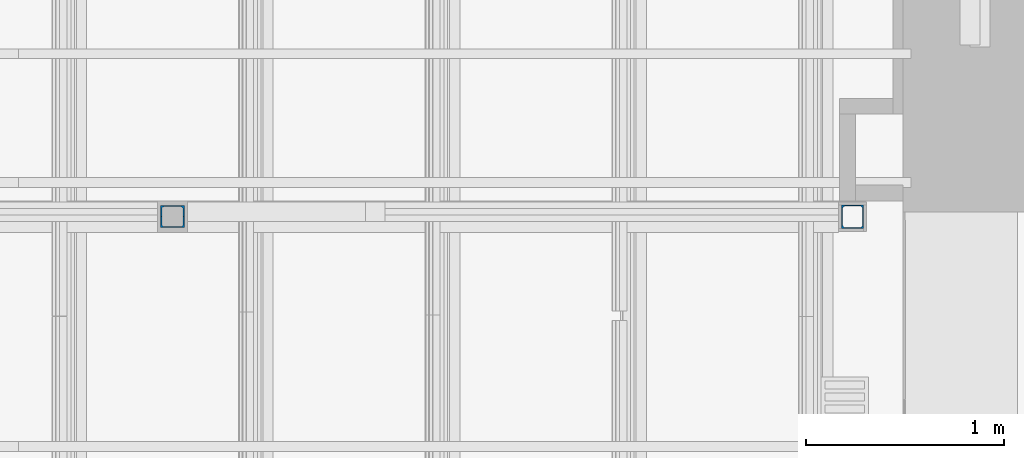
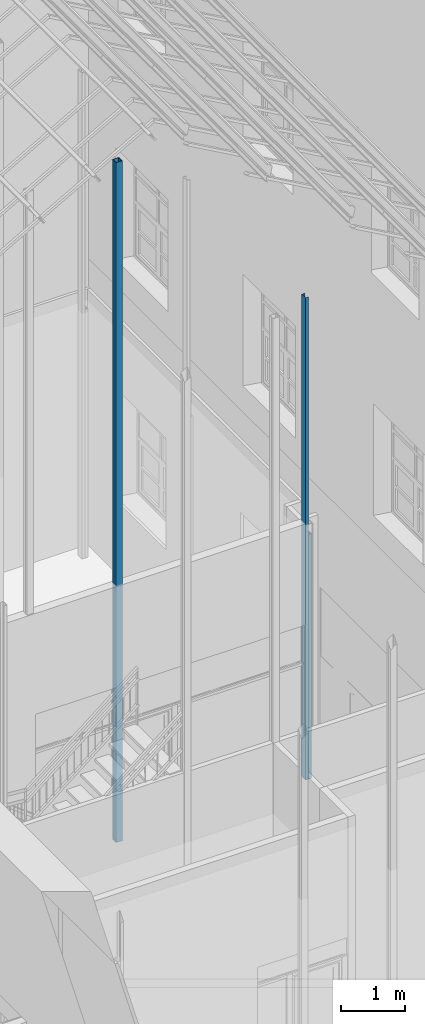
# One storey, part 12 of 75: 4 columns.
"""IFC2X3 building model written with IfcOpenShell, lengths in metres."""

from ifc_helpers import new_model, entity, si_unit, converted_unit, derived_unit, direction, frame, frame_2d, origin, place, context, subcontext, project, spatial, polyline, circle_curve, parameter, trimmed, segment, composite_curve, outline, extrude, source, transform, mapped, material, type_object, type_shapes, element, save


model = new_model("IFC2X3")

# Units and contexts
model_context = context("Model", 3, precision=1e-05, world=origin(), true_north=direction((6.12303176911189e-17, 1.0)))
body_context = subcontext(model_context, "Body", "Model", "MODEL_VIEW")
ifc_project = project(units=[si_unit("LENGTHUNIT", "METRE"), si_unit("AREAUNIT", "SQUARE_METRE"), si_unit("VOLUMEUNIT", "CUBIC_METRE"), converted_unit("PLANEANGLEUNIT", "DEGREE", entity("IfcRatioMeasure", 0.0174532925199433), si_unit("PLANEANGLEUNIT", "RADIAN"), dimensions=[0, 0, 0, 0, 0, 0, 0]), si_unit("MASSUNIT", "GRAM", prefix="KILO"), derived_unit("MASSDENSITYUNIT", [(si_unit("MASSUNIT", "GRAM", prefix="KILO"), 1), (si_unit("LENGTHUNIT", "METRE"), -3)]), derived_unit("MOMENTOFINERTIAUNIT", [(si_unit("LENGTHUNIT", "METRE"), 4)]), si_unit("TIMEUNIT", "SECOND"), si_unit("FREQUENCYUNIT", "HERTZ"), si_unit("THERMODYNAMICTEMPERATUREUNIT", "DEGREE_CELSIUS"), derived_unit("THERMALTRANSMITTANCEUNIT", [(si_unit("MASSUNIT", "GRAM", prefix="KILO"), 1), (si_unit("THERMODYNAMICTEMPERATUREUNIT", "KELVIN"), -1), (si_unit("TIMEUNIT", "SECOND"), -3)]), derived_unit("VOLUMETRICFLOWRATEUNIT", [(si_unit("LENGTHUNIT", "METRE"), 3), (si_unit("TIMEUNIT", "SECOND"), -1)]), si_unit("ELECTRICCURRENTUNIT", "AMPERE"), si_unit("ELECTRICVOLTAGEUNIT", "VOLT"), si_unit("POWERUNIT", "WATT"), si_unit("FORCEUNIT", "NEWTON", prefix="KILO"), si_unit("ILLUMINANCEUNIT", "LUX"), si_unit("LUMINOUSFLUXUNIT", "LUMEN"), si_unit("LUMINOUSINTENSITYUNIT", "CANDELA"), derived_unit("USERDEFINED", [(si_unit("MASSUNIT", "GRAM", prefix="KILO"), -1), (si_unit("LENGTHUNIT", "METRE"), -2), (si_unit("TIMEUNIT", "SECOND"), 3), (si_unit("LUMINOUSFLUXUNIT", "LUMEN"), 1)]), derived_unit("LINEARVELOCITYUNIT", [(si_unit("LENGTHUNIT", "METRE"), 1), (si_unit("TIMEUNIT", "SECOND"), -1)]), si_unit("PRESSUREUNIT", "PASCAL"), derived_unit("USERDEFINED", [(si_unit("LENGTHUNIT", "METRE"), -2), (si_unit("MASSUNIT", "GRAM", prefix="KILO"), 1), (si_unit("TIMEUNIT", "SECOND"), -2)]), derived_unit("LINEARFORCEUNIT", [(si_unit("MASSUNIT", "GRAM", prefix="KILO"), 1), (si_unit("LENGTHUNIT", "METRE"), 1), (si_unit("TIMEUNIT", "SECOND"), -2), (si_unit("LENGTHUNIT", "METRE"), -1)]), derived_unit("PLANARFORCEUNIT", [(si_unit("MASSUNIT", "GRAM", prefix="KILO"), 1), (si_unit("LENGTHUNIT", "METRE"), 1), (si_unit("TIMEUNIT", "SECOND"), -2), (si_unit("LENGTHUNIT", "METRE"), -2)])], contexts=[model_context])

# Site, building, storey
site_placement = place(None, origin())
site = spatial("IfcSite", under=ifc_project, at=site_placement, Name="Superficie", CompositionType="ELEMENT")
building_placement = place(site_placement, origin())
building = spatial("IfcBuilding", under=site, at=building_placement, Name="Telegestiones", CompositionType="ELEMENT")
storey_placement = place(building_placement, origin())
storey = spatial("IfcBuildingStorey", under=building, at=storey_placement, Name="Nivel 0_NPT", CompositionType="ELEMENT", Elevation=0.0)

# Columns
ifc_material = material(Name="Metal - Acero - 345 MPa")
column_type_1 = type_object("IfcColumnType", Name="UPE - Canales de ala paralela - Pilar:UPE 120", PredefinedType="COLUMN", material=ifc_material)
shared_shape_1 = source(origin(), body_context, "Body", "SweptSolid", [
    extrude(outline(composite_curve([segment(polyline([(-0.0599999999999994, -0.0264), (0.0600000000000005, -0.0264)]), True, "CONTINUOUS"), segment(polyline([(0.0600000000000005, -0.0264), (0.0600000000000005, 0.0286)]), True, "CONTINUOUS"), segment(polyline([(0.0600000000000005, 0.0286), (0.0539999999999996, 0.0286)]), True, "CONTINUOUS"), segment(polyline([(0.0539999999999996, 0.0286), (0.0539999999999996, -0.00939999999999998)]), True, "CONTINUOUS"), segment(trimmed(circle_curve(frame_2d((0.0419999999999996, -0.0094), x_axis=(1.0, 0.0)), 0.012), [parameter(270.0)], [parameter(0.0)], True, "PARAMETER"), False, "CONTINUOUS"), segment(polyline([(0.0419999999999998, -0.0214), (-0.0420000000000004, -0.0214)]), True, "CONTINUOUS"), segment(trimmed(circle_curve(frame_2d((-0.0420000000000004, -0.00940000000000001), x_axis=(0.0, -1.0)), 0.012), [parameter(270.0)], [parameter(0.0)], True, "PARAMETER"), False, "CONTINUOUS"), segment(polyline([(-0.0540000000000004, -0.0094), (-0.0540000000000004, 0.0286)]), True, "CONTINUOUS"), segment(polyline([(-0.0540000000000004, 0.0286), (-0.0599999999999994, 0.0286)]), True, "CONTINUOUS"), segment(polyline([(-0.0599999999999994, 0.0286), (-0.0599999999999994, -0.0264)]), True, "CONTINUOUS")], self_intersect=False)), frame((0.00660000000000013, 0.0, 0.0), z_axis=(0.0, 0.0, 1.0), x_axis=(0.0, -1.0, 0.0)), (0.0, 0.0, 1.0), 13.07),
])
type_shapes(column_type_1, [shared_shape_1])
column_1_placement = place(storey_placement, frame((11.2718126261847, 6.47080722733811, 0.0), z_axis=(0.0, 0.0, 1.0), x_axis=(0.0, -1.0, 0.0)))
element("IfcColumn", 1, at=column_1_placement, inside=storey, type_object=column_type_1, Name="UPE - Canales de ala paralela - Pilar:UPE 120", ObjectType="UPE - Canales de ala paralela - Pilar:UPE 120", context=body_context, shape_type="MappedRepresentation", body=[
    mapped(shared_shape_1, transform((0.0, 0.0, 0.0), scale=1.0)),
])
column_type_2 = type_object("IfcColumnType", Name="UPE - Canales de ala paralela - Pilar:UPE 120", PredefinedType="COLUMN", material=ifc_material)
shared_shape_2 = source(origin(), body_context, "Body", "SweptSolid", [
    extrude(outline(composite_curve([segment(polyline([(-0.0599999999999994, -0.0264), (0.0600000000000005, -0.0264)]), True, "CONTINUOUS"), segment(polyline([(0.0600000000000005, -0.0264), (0.0600000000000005, 0.0286)]), True, "CONTINUOUS"), segment(polyline([(0.0600000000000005, 0.0286), (0.0539999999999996, 0.0286)]), True, "CONTINUOUS"), segment(polyline([(0.0539999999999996, 0.0286), (0.0539999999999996, -0.00939999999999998)]), True, "CONTINUOUS"), segment(trimmed(circle_curve(frame_2d((0.0419999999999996, -0.0094), x_axis=(1.0, 0.0)), 0.012), [parameter(270.0)], [parameter(0.0)], True, "PARAMETER"), False, "CONTINUOUS"), segment(polyline([(0.0419999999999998, -0.0214), (-0.0420000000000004, -0.0214)]), True, "CONTINUOUS"), segment(trimmed(circle_curve(frame_2d((-0.0420000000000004, -0.00940000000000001), x_axis=(0.0, -1.0)), 0.012), [parameter(270.0)], [parameter(0.0)], True, "PARAMETER"), False, "CONTINUOUS"), segment(polyline([(-0.0540000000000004, -0.0094), (-0.0540000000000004, 0.0286)]), True, "CONTINUOUS"), segment(polyline([(-0.0540000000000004, 0.0286), (-0.0599999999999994, 0.0286)]), True, "CONTINUOUS"), segment(polyline([(-0.0599999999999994, 0.0286), (-0.0599999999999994, -0.0264)]), True, "CONTINUOUS")], self_intersect=False)), frame((0.00660000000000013, 0.0, 0.0), z_axis=(0.0, 0.0, 1.0), x_axis=(0.0, -1.0, 0.0)), (0.0, 0.0, 1.0), 9.27),
])
type_shapes(column_type_2, [shared_shape_2])
column_2_placement = place(storey_placement, frame((14.6756126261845, 6.43460736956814, 0.0)))
element("IfcColumn", 2, at=column_2_placement, inside=storey, type_object=column_type_2, Name="UPE - Canales de ala paralela - Pilar:UPE 120", ObjectType="UPE - Canales de ala paralela - Pilar:UPE 120", context=body_context, shape_type="MappedRepresentation", body=[
    mapped(shared_shape_2, transform((0.0, 0.0, 0.0), scale=1.0)),
])
column_type_3 = type_object("IfcColumnType", Name="UPE - Canales de ala paralela - Pilar:UPE 120", PredefinedType="COLUMN", material=ifc_material)
shared_shape_3 = source(origin(), body_context, "Body", "SweptSolid", [
    extrude(outline(composite_curve([segment(polyline([(-0.0600000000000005, -0.0264), (0.0599999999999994, -0.0264)]), True, "CONTINUOUS"), segment(polyline([(0.0599999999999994, -0.0264), (0.0599999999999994, 0.0286)]), True, "CONTINUOUS"), segment(polyline([(0.0599999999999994, 0.0286), (0.0540000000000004, 0.0286)]), True, "CONTINUOUS"), segment(polyline([(0.0540000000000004, 0.0286), (0.0540000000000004, -0.00939999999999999)]), True, "CONTINUOUS"), segment(trimmed(circle_curve(frame_2d((0.0420000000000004, -0.00939999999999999), x_axis=(1.0, 0.0)), 0.012), [parameter(270.0)], [parameter(0.0)], True, "PARAMETER"), False, "CONTINUOUS"), segment(polyline([(0.0420000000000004, -0.0214), (-0.0419999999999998, -0.0214)]), True, "CONTINUOUS"), segment(trimmed(circle_curve(frame_2d((-0.0419999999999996, -0.00939999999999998), x_axis=(0.0, -1.0)), 0.012), [parameter(270.0)], [parameter(0.0)], True, "PARAMETER"), False, "CONTINUOUS"), segment(polyline([(-0.0539999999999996, -0.00939999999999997), (-0.0539999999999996, 0.0286)]), True, "CONTINUOUS"), segment(polyline([(-0.0539999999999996, 0.0286), (-0.0600000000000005, 0.0286)]), True, "CONTINUOUS"), segment(polyline([(-0.0600000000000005, 0.0286), (-0.0600000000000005, -0.0264)]), True, "CONTINUOUS")], self_intersect=False)), frame((0.00660000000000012, 0.0, 0.0), z_axis=(0.0, 0.0, 1.0), x_axis=(0.0, -1.0, 0.0)), (0.0, 0.0, 1.0), 4.71),
])
type_shapes(column_type_3, [shared_shape_3])
column_3_placement = place(storey_placement, frame((14.7460126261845, 6.43460722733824, 0.0), z_axis=(0.0, 0.0, 1.0), x_axis=(-1.0, 0.0, 0.0)))
element("IfcColumn", 3, at=column_3_placement, inside=storey, type_object=column_type_3, Name="UPE - Canales de ala paralela - Pilar:UPE 120", ObjectType="UPE - Canales de ala paralela - Pilar:UPE 120", context=body_context, shape_type="MappedRepresentation", body=[
    mapped(shared_shape_3, transform((0.0, 0.0, 0.0), scale=1.0)),
])
column_type_4 = type_object("IfcColumnType", Name="UPE - Canales de ala paralela - Pilar:UPE 120", PredefinedType="COLUMN", material=ifc_material)
shared_shape_4 = source(origin(), body_context, "Body", "SweptSolid", [
    extrude(outline(composite_curve([segment(polyline([(-0.0600000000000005, -0.0264), (0.0599999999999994, -0.0264)]), True, "CONTINUOUS"), segment(polyline([(0.0599999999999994, -0.0264), (0.0599999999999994, 0.0286)]), True, "CONTINUOUS"), segment(polyline([(0.0599999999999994, 0.0286), (0.0540000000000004, 0.0286)]), True, "CONTINUOUS"), segment(polyline([(0.0540000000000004, 0.0286), (0.0540000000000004, -0.00939999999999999)]), True, "CONTINUOUS"), segment(trimmed(circle_curve(frame_2d((0.0420000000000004, -0.00939999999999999), x_axis=(1.0, 0.0)), 0.012), [parameter(270.0)], [parameter(0.0)], True, "PARAMETER"), False, "CONTINUOUS"), segment(polyline([(0.0420000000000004, -0.0214), (-0.0419999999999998, -0.0214)]), True, "CONTINUOUS"), segment(trimmed(circle_curve(frame_2d((-0.0419999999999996, -0.00939999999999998), x_axis=(0.0, -1.0)), 0.012), [parameter(270.0)], [parameter(0.0)], True, "PARAMETER"), False, "CONTINUOUS"), segment(polyline([(-0.0539999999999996, -0.00939999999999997), (-0.0539999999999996, 0.0286)]), True, "CONTINUOUS"), segment(polyline([(-0.0539999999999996, 0.0286), (-0.0600000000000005, 0.0286)]), True, "CONTINUOUS"), segment(polyline([(-0.0600000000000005, 0.0286), (-0.0600000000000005, -0.0264)]), True, "CONTINUOUS")], self_intersect=False)), frame((0.00660000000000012, 0.0, 0.0), z_axis=(0.0, 0.0, 1.0), x_axis=(0.0, -1.0, 0.0)), (0.0, 0.0, 1.0), 13.07),
])
type_shapes(column_type_4, [shared_shape_4])
column_4_placement = place(storey_placement, frame((11.2718126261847, 6.40040722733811, 0.0), z_axis=(0.0, 0.0, 1.0), x_axis=(0.0, 1.0, 0.0)))
element("IfcColumn", 4, at=column_4_placement, inside=storey, type_object=column_type_4, Name="UPE - Canales de ala paralela - Pilar:UPE 120", ObjectType="UPE - Canales de ala paralela - Pilar:UPE 120", context=body_context, shape_type="MappedRepresentation", body=[
    mapped(shared_shape_4, transform((0.0, 0.0, 0.0), scale=1.0)),
])

save(model, "model.ifc")
